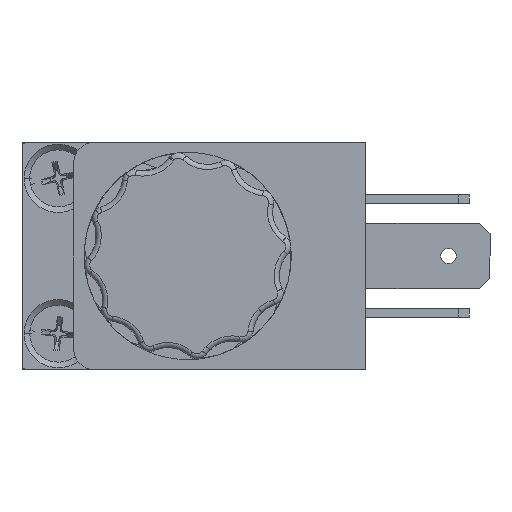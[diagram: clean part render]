
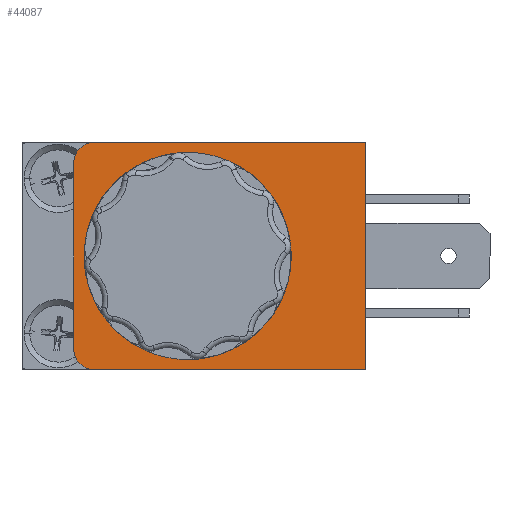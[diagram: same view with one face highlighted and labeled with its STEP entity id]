
A CAD part, left-side view. The second image highlights one B-rep face of the part: STEP entity #44087.
In plain terms, the highlighted planar face has unit normal (-1, 0, 0) as drawn and (0, 0, 1) by its records, which use the part's own axes.
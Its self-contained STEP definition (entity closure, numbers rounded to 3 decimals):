
#3007 = EDGE_LOOP ( 'NONE', ( #24267, #24265 ) ) ;
#3014 = EDGE_LOOP ( 'NONE', ( #3586, #3584, #3582, #3580, #3578, #3576, #3574, #3566 ) ) ;
#3566 = ORIENTED_EDGE ( 'NONE', *, *, #4290, .F. ) ;
#3574 = ORIENTED_EDGE ( 'NONE', *, *, #43463, .F. ) ;
#3576 = ORIENTED_EDGE ( 'NONE', *, *, #43465, .F. ) ;
#3578 = ORIENTED_EDGE ( 'NONE', *, *, #43546, .F. ) ;
#3580 = ORIENTED_EDGE ( 'NONE', *, *, #43516, .F. ) ;
#3582 = ORIENTED_EDGE ( 'NONE', *, *, #4292, .F. ) ;
#3584 = ORIENTED_EDGE ( 'NONE', *, *, #43483, .F. ) ;
#3586 = ORIENTED_EDGE ( 'NONE', *, *, #43532, .F. ) ;
#4290 = EDGE_CURVE ( 'NONE', #9507, #9036, #15189, .T. ) ;
#4292 = EDGE_CURVE ( 'NONE', #9554, #9535, #15193, .T. ) ;
#4306 = EDGE_CURVE ( 'NONE', #10039, #9248, #15217, .T. ) ;
#8032 = AXIS2_PLACEMENT_3D ( 'NONE', #16310, #16311, #16312 ) ;
#8033 = AXIS2_PLACEMENT_3D ( 'NONE', #16313, #16316, #16317 ) ;
#8037 = AXIS2_PLACEMENT_3D ( 'NONE', #16351, #16352, #16353 ) ;
#8390 = AXIS2_PLACEMENT_3D ( 'NONE', #23120, #23136, #23137 ) ;
#8404 = AXIS2_PLACEMENT_3D ( 'NONE', #23197, #23203, #23204 ) ;
#8411 = AXIS2_PLACEMENT_3D ( 'NONE', #23239, #23247, #23248 ) ;
#8642 = AXIS2_PLACEMENT_3D ( 'NONE', #26350, #26362, #26363 ) ;
#9036 = VERTEX_POINT ( 'NONE', #20970 ) ;
#9248 = VERTEX_POINT ( 'NONE', #21203 ) ;
#9252 = VERTEX_POINT ( 'NONE', #21207 ) ;
#9423 = VERTEX_POINT ( 'NONE', #21390 ) ;
#9507 = VERTEX_POINT ( 'NONE', #21502 ) ;
#9535 = VERTEX_POINT ( 'NONE', #21544 ) ;
#9554 = VERTEX_POINT ( 'NONE', #21572 ) ;
#9714 = VERTEX_POINT ( 'NONE', #21871 ) ;
#9901 = VERTEX_POINT ( 'NONE', #22058 ) ;
#10039 = VERTEX_POINT ( 'NONE', #22196 ) ;
#15189 = CIRCLE ( 'NONE', #8032, 2. ) ;
#15193 = CIRCLE ( 'NONE', #8033, 2. ) ;
#15217 = CIRCLE ( 'NONE', #8037, 8.3 ) ;
#16310 = CARTESIAN_POINT ( 'NONE',  ( 9., 9., 30.5 ) ) ;
#16311 = DIRECTION ( 'NONE',  ( 0., 0., -1. ) ) ;
#16312 = DIRECTION ( 'NONE',  ( 0.707, 0.707, 0. ) ) ;
#16313 = CARTESIAN_POINT ( 'NONE',  ( -9., 9., 30.5 ) ) ;
#16316 = DIRECTION ( 'NONE',  ( 0., 0., -1. ) ) ;
#16317 = DIRECTION ( 'NONE',  ( -0.707, 0.707, 0. ) ) ;
#16351 = CARTESIAN_POINT ( 'NONE',  ( 0., 0., 30.5 ) ) ;
#16352 = DIRECTION ( 'NONE',  ( 0., 0., -1. ) ) ;
#16353 = DIRECTION ( 'NONE',  ( -1., 0., 0. ) ) ;
#18732 = LINE ( 'NONE', #23052, #18743 ) ;
#18740 = VECTOR ( 'NONE', #23046, 1000. ) ;
#18743 = VECTOR ( 'NONE', #23053, 1000. ) ;
#18745 = LINE ( 'NONE', #23036, #18740 ) ;
#20970 = CARTESIAN_POINT ( 'NONE',  ( 11., 9., 30.5 ) ) ;
#21203 = CARTESIAN_POINT ( 'NONE',  ( -8.3, 0., 30.5 ) ) ;
#21207 = CARTESIAN_POINT ( 'NONE',  ( 11., -17.2, 30.5 ) ) ;
#21390 = CARTESIAN_POINT ( 'NONE',  ( -11., -17.2, 30.5 ) ) ;
#21502 = CARTESIAN_POINT ( 'NONE',  ( 10.414, 10.414, 30.5 ) ) ;
#21544 = CARTESIAN_POINT ( 'NONE',  ( -9., 11., 30.5 ) ) ;
#21572 = CARTESIAN_POINT ( 'NONE',  ( -10.414, 10.414, 30.5 ) ) ;
#21871 = CARTESIAN_POINT ( 'NONE',  ( 9., 11., 30.5 ) ) ;
#22058 = CARTESIAN_POINT ( 'NONE',  ( -11., 9., 30.5 ) ) ;
#22196 = CARTESIAN_POINT ( 'NONE',  ( 8.3, 0., 30.5 ) ) ;
#23036 = CARTESIAN_POINT ( 'NONE',  ( 11., 9., 30.5 ) ) ;
#23046 = DIRECTION ( 'NONE',  ( 0., -1., 0. ) ) ;
#23052 = CARTESIAN_POINT ( 'NONE',  ( 11., -17.2, 30.5 ) ) ;
#23053 = DIRECTION ( 'NONE',  ( -1., 0., 0. ) ) ;
#23101 = CARTESIAN_POINT ( 'NONE',  ( -9., 11., 30.5 ) ) ;
#23102 = DIRECTION ( 'NONE',  ( 1., 0., 0. ) ) ;
#23120 = CARTESIAN_POINT ( 'NONE',  ( 0., 0., 30.5 ) ) ;
#23136 = DIRECTION ( 'NONE',  ( 0., 0., -1. ) ) ;
#23137 = DIRECTION ( 'NONE',  ( -1., 0., 0. ) ) ;
#23197 = CARTESIAN_POINT ( 'NONE',  ( -9., 9., 30.5 ) ) ;
#23203 = DIRECTION ( 'NONE',  ( 0., 0., -1. ) ) ;
#23204 = DIRECTION ( 'NONE',  ( -0.707, 0.707, 0. ) ) ;
#23239 = CARTESIAN_POINT ( 'NONE',  ( 9., 9., 30.5 ) ) ;
#23247 = DIRECTION ( 'NONE',  ( 0., 0., -1. ) ) ;
#23248 = DIRECTION ( 'NONE',  ( 0.707, 0.707, 0. ) ) ;
#23289 = CARTESIAN_POINT ( 'NONE',  ( -11., -17.2, 30.5 ) ) ;
#23290 = DIRECTION ( 'NONE',  ( 0., 1., 0. ) ) ;
#23501 = LINE ( 'NONE', #23101, #23502 ) ;
#23502 = VECTOR ( 'NONE', #23102, 1000. ) ;
#23520 = CIRCLE ( 'NONE', #8390, 8.3 ) ;
#23547 = CIRCLE ( 'NONE', #8404, 2. ) ;
#23569 = CIRCLE ( 'NONE', #8411, 2. ) ;
#23581 = LINE ( 'NONE', #23289, #23582 ) ;
#23582 = VECTOR ( 'NONE', #23290, 1000. ) ;
#24079 = FACE_OUTER_BOUND ( 'NONE', #3014, .T. ) ;
#24088 = FACE_BOUND ( 'NONE', #3007, .T. ) ;
#24265 = ORIENTED_EDGE ( 'NONE', *, *, #4306, .T. ) ;
#24267 = ORIENTED_EDGE ( 'NONE', *, *, #43494, .T. ) ;
#26350 = CARTESIAN_POINT ( 'NONE',  ( 0., -3.1, 30.5 ) ) ;
#26354 = PLANE ( 'NONE',  #8642 ) ;
#26362 = DIRECTION ( 'NONE',  ( 0., 0., 1. ) ) ;
#26363 = DIRECTION ( 'NONE',  ( 0.707, 0.707, 0. ) ) ;
#43463 = EDGE_CURVE ( 'NONE', #9036, #9252, #18745, .T. ) ;
#43465 = EDGE_CURVE ( 'NONE', #9252, #9423, #18732, .T. ) ;
#43483 = EDGE_CURVE ( 'NONE', #9535, #9714, #23501, .T. ) ;
#43494 = EDGE_CURVE ( 'NONE', #9248, #10039, #23520, .T. ) ;
#43516 = EDGE_CURVE ( 'NONE', #9901, #9554, #23547, .T. ) ;
#43532 = EDGE_CURVE ( 'NONE', #9714, #9507, #23569, .T. ) ;
#43546 = EDGE_CURVE ( 'NONE', #9423, #9901, #23581, .T. ) ;
#44087 = ADVANCED_FACE ( 'NONE', ( #24079, #24088 ), #26354, .T. ) ;
